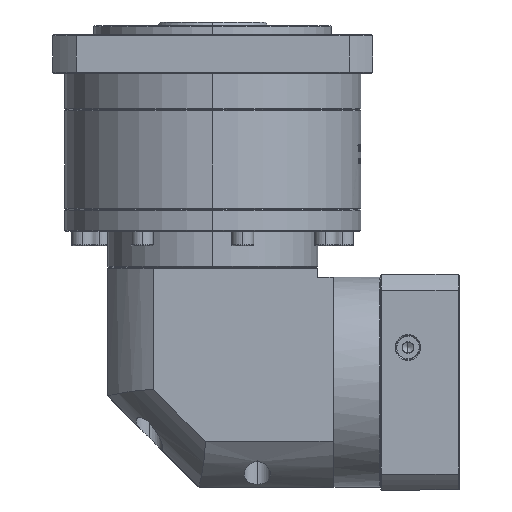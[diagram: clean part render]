
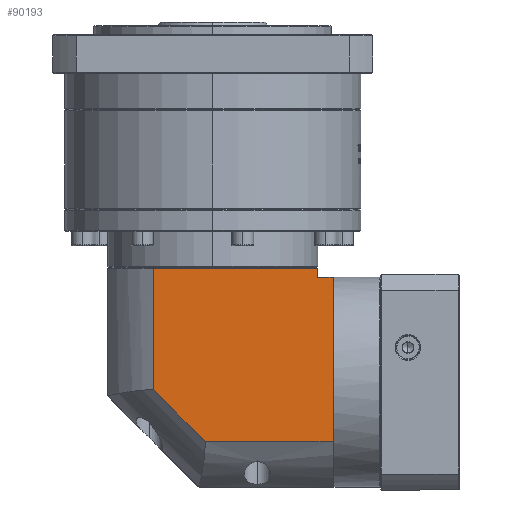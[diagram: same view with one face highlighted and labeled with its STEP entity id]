
A CAD part, left-side view. The second image highlights one B-rep face of the part: STEP entity #90193.
In plain terms, the highlighted planar face has unit normal (-1, 0, 0).
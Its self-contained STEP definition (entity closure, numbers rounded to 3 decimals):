
#5197 = CARTESIAN_POINT ( 'NONE',  ( -229.77, -152.607, 37.459 ) ) ;
#7439 = CARTESIAN_POINT ( 'NONE',  ( -229.77, -29.207, 37.459 ) ) ;
#10260 = DIRECTION ( 'NONE',  ( 0., 1., 0. ) ) ;
#11826 = DIRECTION ( 'NONE',  ( 0., 0.707, 0.707 ) ) ;
#12836 = ORIENTED_EDGE ( 'NONE', *, *, #62615, .F. ) ;
#16034 = EDGE_LOOP ( 'NONE', ( #145408, #84118, #12836, #101415, #59480, #85253, #36598 ) ) ;
#16292 = VERTEX_POINT ( 'NONE', #73558 ) ;
#18333 = VECTOR ( 'NONE', #88768, 1000. ) ;
#20033 = FACE_OUTER_BOUND ( 'NONE', #16034, .T. ) ;
#26679 = LINE ( 'NONE', #81826, #80924 ) ;
#34315 = VECTOR ( 'NONE', #145401, 1000. ) ;
#35803 = VECTOR ( 'NONE', #142850, 1000. ) ;
#35873 = VERTEX_POINT ( 'NONE', #85299 ) ;
#36598 = ORIENTED_EDGE ( 'NONE', *, *, #141779, .F. ) ;
#37948 = VERTEX_POINT ( 'NONE', #58715 ) ;
#42103 = CARTESIAN_POINT ( 'NONE',  ( -229.77, -54.307, 30.959 ) ) ;
#47265 = DIRECTION ( 'NONE',  ( 0., 0., 1. ) ) ;
#49029 = LINE ( 'NONE', #58437, #35803 ) ;
#56453 = VERTEX_POINT ( 'NONE', #133505 ) ;
#58374 = EDGE_CURVE ( 'NONE', #35873, #37948, #94804, .T. ) ;
#58437 = CARTESIAN_POINT ( 'NONE',  ( -229.77, -29.207, 30.959 ) ) ;
#58715 = CARTESIAN_POINT ( 'NONE',  ( -229.77, -152.607, -63.941 ) ) ;
#59480 = ORIENTED_EDGE ( 'NONE', *, *, #93927, .T. ) ;
#62615 = EDGE_CURVE ( 'NONE', #37948, #16292, #26679, .T. ) ;
#64007 = DIRECTION ( 'NONE',  ( 0., 0., 1. ) ) ;
#68058 = AXIS2_PLACEMENT_3D ( 'NONE', #7439, #150614, #79072 ) ;
#68591 = LINE ( 'NONE', #82864, #128373 ) ;
#72439 = EDGE_CURVE ( 'NONE', #16292, #126729, #68591, .T. ) ;
#72869 = CARTESIAN_POINT ( 'NONE',  ( -229.77, -144.207, -89.041 ) ) ;
#73558 = CARTESIAN_POINT ( 'NONE',  ( -229.77, -82.645, -63.941 ) ) ;
#75450 = CARTESIAN_POINT ( 'NONE',  ( -229.77, -144.207, 25.959 ) ) ;
#79072 = DIRECTION ( 'NONE',  ( 0., 1., 0. ) ) ;
#80924 = VECTOR ( 'NONE', #10260, 1000. ) ;
#81826 = CARTESIAN_POINT ( 'NONE',  ( -229.77, -29.207, -63.941 ) ) ;
#82864 = CARTESIAN_POINT ( 'NONE',  ( -229.77, -82.645, -63.941 ) ) ;
#84118 = ORIENTED_EDGE ( 'NONE', *, *, #72439, .F. ) ;
#85253 = ORIENTED_EDGE ( 'NONE', *, *, #111861, .T. ) ;
#85299 = CARTESIAN_POINT ( 'NONE',  ( -229.77, -152.607, 25.959 ) ) ;
#88768 = DIRECTION ( 'NONE',  ( 0., 0., -1. ) ) ;
#90079 = EDGE_CURVE ( 'NONE', #126729, #126841, #90921, .T. ) ;
#90193 = ADVANCED_FACE ( 'NONE', ( #20033 ), #111410, .F. ) ;
#90921 = LINE ( 'NONE', #134367, #141487 ) ;
#93927 = EDGE_CURVE ( 'NONE', #35873, #56453, #116472, .T. ) ;
#93995 = VECTOR ( 'NONE', #47265, 1000. ) ;
#94804 = LINE ( 'NONE', #5197, #18333 ) ;
#95480 = VERTEX_POINT ( 'NONE', #144146 ) ;
#101415 = ORIENTED_EDGE ( 'NONE', *, *, #58374, .F. ) ;
#111410 = PLANE ( 'NONE',  #68058 ) ;
#111861 = EDGE_CURVE ( 'NONE', #56453, #95480, #125803, .T. ) ;
#116472 = LINE ( 'NONE', #75450, #34315 ) ;
#125556 = CARTESIAN_POINT ( 'NONE',  ( -229.77, -54.307, -35.603 ) ) ;
#125803 = LINE ( 'NONE', #72869, #93995 ) ;
#126729 = VERTEX_POINT ( 'NONE', #125556 ) ;
#126841 = VERTEX_POINT ( 'NONE', #42103 ) ;
#128373 = VECTOR ( 'NONE', #11826, 1000. ) ;
#133505 = CARTESIAN_POINT ( 'NONE',  ( -229.77, -144.207, 25.959 ) ) ;
#134367 = CARTESIAN_POINT ( 'NONE',  ( -229.77, -54.307, 37.459 ) ) ;
#141487 = VECTOR ( 'NONE', #64007, 1000. ) ;
#141779 = EDGE_CURVE ( 'NONE', #126841, #95480, #49029, .T. ) ;
#142850 = DIRECTION ( 'NONE',  ( 0., -1., 0. ) ) ;
#144146 = CARTESIAN_POINT ( 'NONE',  ( -229.77, -144.207, 30.959 ) ) ;
#145401 = DIRECTION ( 'NONE',  ( 0., 1., 0. ) ) ;
#145408 = ORIENTED_EDGE ( 'NONE', *, *, #90079, .F. ) ;
#150614 = DIRECTION ( 'NONE',  ( 1., 0., 0. ) ) ;
